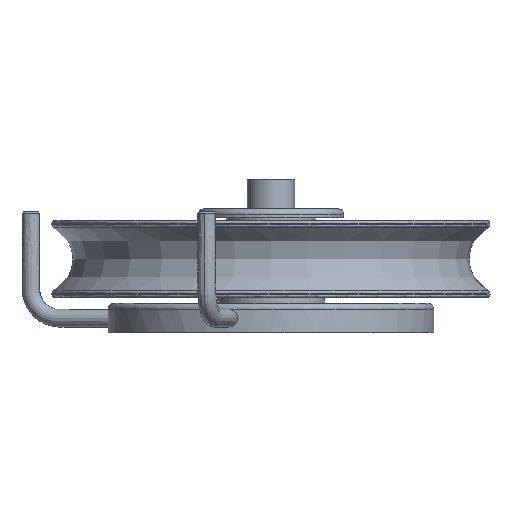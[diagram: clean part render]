
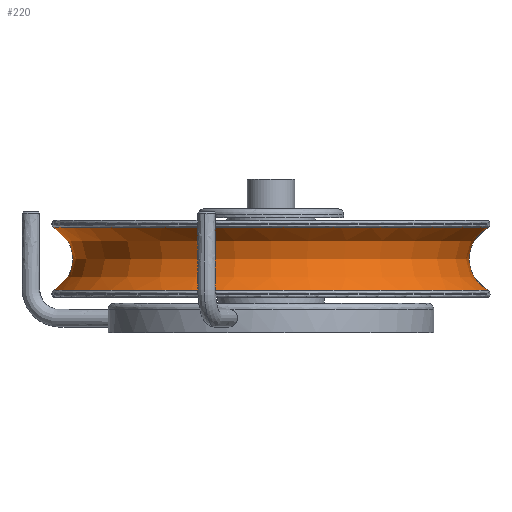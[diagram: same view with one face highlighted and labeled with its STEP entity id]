
A CAD part, front view. The second image highlights one B-rep face of the part: STEP entity #220.
In plain terms, the highlighted free-form (B-spline) face has degree [2, 2] with [5, 5] control points.
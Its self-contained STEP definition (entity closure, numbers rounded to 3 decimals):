
#220=ADVANCED_FACE('',(#426),#2506,.T.);
#426=FACE_OUTER_BOUND('',#632,.T.);
#632=EDGE_LOOP('',(#933,#934,#935,#936));
#933=ORIENTED_EDGE('',*,*,#1891,.T.);
#934=ORIENTED_EDGE('',*,*,#1892,.T.);
#935=ORIENTED_EDGE('',*,*,#1804,.F.);
#936=ORIENTED_EDGE('',*,*,#1890,.F.);
#1804=EDGE_CURVE('',#2234,#2235,#9475,.T.);
#1890=EDGE_CURVE('',#2296,#2234,#9530,.T.);
#1891=EDGE_CURVE('',#2296,#2297,#9531,.T.);
#1892=EDGE_CURVE('',#2297,#2235,#9532,.T.);
#2234=VERTEX_POINT('',#4316);
#2235=VERTEX_POINT('',#4317);
#2296=VERTEX_POINT('',#4378);
#2297=VERTEX_POINT('',#4379);
#2506=(
BOUNDED_SURFACE()
B_SPLINE_SURFACE(2,2,((#3696,#3697,#3698,#3699,#3700),(#3701,#3702,#3703,
#3704,#3705),(#3706,#3707,#3708,#3709,#3710),(#3711,#3712,#3713,#3714,#3715),
(#3716,#3717,#3718,#3719,#3720)),.UNSPECIFIED.,.F.,.F.,.F.)
B_SPLINE_SURFACE_WITH_KNOTS((3,2,3),(3,2,3),(0.,1.571,3.142),
(43.456,56.549,69.641),.UNSPECIFIED.)
GEOMETRIC_REPRESENTATION_ITEM()
RATIONAL_B_SPLINE_SURFACE(((1.,0.855,1.,0.855,1.),
(0.707,0.604,0.707,0.604,
0.707),(1.,0.855,1.,0.855,1.),(0.707,
0.604,0.707,0.604,0.707),
(1.,0.855,1.,0.855,1.)))
REPRESENTATION_ITEM('')
SURFACE()
);
#3017=CARTESIAN_POINT('',(-80.818,22.282,39.));
#3018=CARTESIAN_POINT('',(-74.356,22.282,42.361));
#3019=CARTESIAN_POINT('',(-74.356,22.282,49.645));
#3020=CARTESIAN_POINT('',(-74.356,22.282,56.929));
#3021=CARTESIAN_POINT('',(-80.818,22.282,60.29));
#3334=CARTESIAN_POINT('',(66.105,22.282,39.));
#3335=CARTESIAN_POINT('',(66.105,-51.18,39.));
#3336=CARTESIAN_POINT('',(-7.356,-51.18,39.));
#3337=CARTESIAN_POINT('',(-80.818,-51.18,39.));
#3338=CARTESIAN_POINT('',(-80.818,22.282,39.));
#3339=CARTESIAN_POINT('',(66.105,22.282,39.));
#3340=CARTESIAN_POINT('',(59.644,22.282,42.361));
#3341=CARTESIAN_POINT('',(59.644,22.282,49.645));
#3342=CARTESIAN_POINT('',(59.644,22.282,56.929));
#3343=CARTESIAN_POINT('',(66.105,22.282,60.29));
#3344=CARTESIAN_POINT('',(66.105,22.282,60.29));
#3345=CARTESIAN_POINT('',(66.105,-51.18,60.29));
#3346=CARTESIAN_POINT('',(-7.356,-51.18,60.29));
#3347=CARTESIAN_POINT('',(-80.818,-51.18,60.29));
#3348=CARTESIAN_POINT('',(-80.818,22.282,60.29));
#3696=CARTESIAN_POINT('',(-80.818,22.282,39.));
#3697=CARTESIAN_POINT('',(-74.356,22.282,42.361));
#3698=CARTESIAN_POINT('',(-74.356,22.282,49.645));
#3699=CARTESIAN_POINT('',(-74.356,22.282,56.929));
#3700=CARTESIAN_POINT('',(-80.818,22.282,60.29));
#3701=CARTESIAN_POINT('',(-80.818,-51.18,39.));
#3702=CARTESIAN_POINT('',(-74.356,-44.718,42.361));
#3703=CARTESIAN_POINT('',(-74.356,-44.718,49.645));
#3704=CARTESIAN_POINT('',(-74.356,-44.718,56.929));
#3705=CARTESIAN_POINT('',(-80.818,-51.18,60.29));
#3706=CARTESIAN_POINT('',(-7.356,-51.18,39.));
#3707=CARTESIAN_POINT('',(-7.356,-44.718,42.361));
#3708=CARTESIAN_POINT('',(-7.356,-44.718,49.645));
#3709=CARTESIAN_POINT('',(-7.356,-44.718,56.929));
#3710=CARTESIAN_POINT('',(-7.356,-51.18,60.29));
#3711=CARTESIAN_POINT('',(66.105,-51.18,39.));
#3712=CARTESIAN_POINT('',(59.644,-44.718,42.361));
#3713=CARTESIAN_POINT('',(59.644,-44.718,49.645));
#3714=CARTESIAN_POINT('',(59.644,-44.718,56.929));
#3715=CARTESIAN_POINT('',(66.105,-51.18,60.29));
#3716=CARTESIAN_POINT('',(66.105,22.282,39.));
#3717=CARTESIAN_POINT('',(59.644,22.282,42.361));
#3718=CARTESIAN_POINT('',(59.644,22.282,49.645));
#3719=CARTESIAN_POINT('',(59.644,22.282,56.929));
#3720=CARTESIAN_POINT('',(66.105,22.282,60.29));
#4316=CARTESIAN_POINT('',(-80.818,22.282,39.));
#4317=CARTESIAN_POINT('',(-80.818,22.282,60.29));
#4378=CARTESIAN_POINT('',(66.105,22.282,39.));
#4379=CARTESIAN_POINT('',(66.105,22.282,60.29));
#9475=(
BOUNDED_CURVE()
B_SPLINE_CURVE(2,(#3017,#3018,#3019,#3020,#3021),.UNSPECIFIED.,.F.,.F.)
B_SPLINE_CURVE_WITH_KNOTS((3,2,3),(43.456,56.549,69.641),
.UNSPECIFIED.)
CURVE()
GEOMETRIC_REPRESENTATION_ITEM()
RATIONAL_B_SPLINE_CURVE((1.,0.855,1.,0.855,1.))
REPRESENTATION_ITEM('')
);
#9530=(
BOUNDED_CURVE()
B_SPLINE_CURVE(2,(#3334,#3335,#3336,#3337,#3338),.UNSPECIFIED.,.F.,.F.)
B_SPLINE_CURVE_WITH_KNOTS((3,2,3),(-3.142,-1.571,0.),
.UNSPECIFIED.)
CURVE()
GEOMETRIC_REPRESENTATION_ITEM()
RATIONAL_B_SPLINE_CURVE((1.,0.707,1.,0.707,1.))
REPRESENTATION_ITEM('')
);
#9531=(
BOUNDED_CURVE()
B_SPLINE_CURVE(2,(#3339,#3340,#3341,#3342,#3343),.UNSPECIFIED.,.F.,.F.)
B_SPLINE_CURVE_WITH_KNOTS((3,2,3),(43.456,56.549,69.641),
.UNSPECIFIED.)
CURVE()
GEOMETRIC_REPRESENTATION_ITEM()
RATIONAL_B_SPLINE_CURVE((1.,0.855,1.,0.855,1.))
REPRESENTATION_ITEM('')
);
#9532=(
BOUNDED_CURVE()
B_SPLINE_CURVE(2,(#3344,#3345,#3346,#3347,#3348),.UNSPECIFIED.,.F.,.F.)
B_SPLINE_CURVE_WITH_KNOTS((3,2,3),(-3.142,-1.571,0.),
.UNSPECIFIED.)
CURVE()
GEOMETRIC_REPRESENTATION_ITEM()
RATIONAL_B_SPLINE_CURVE((1.,0.707,1.,0.707,1.))
REPRESENTATION_ITEM('')
);
